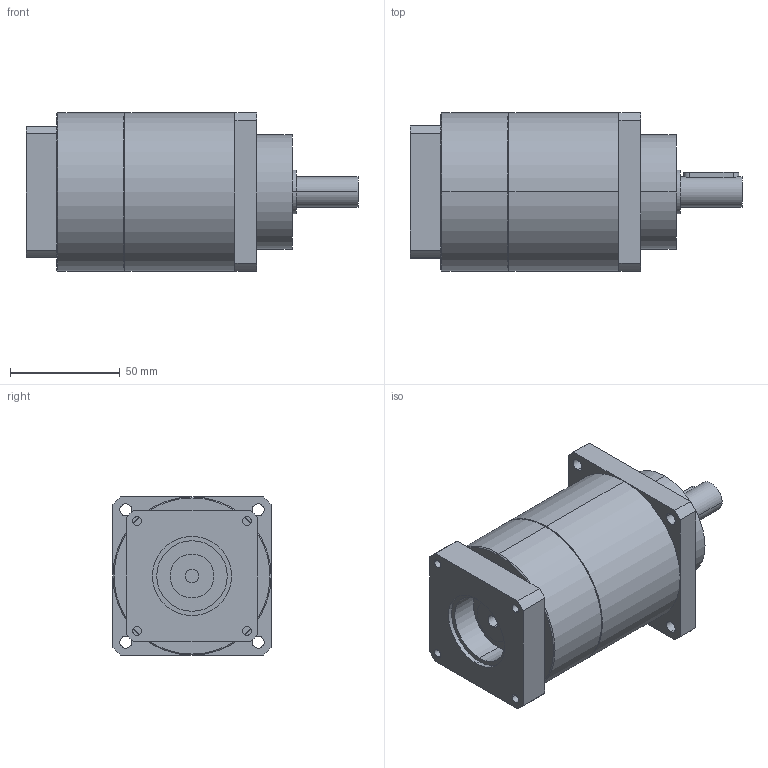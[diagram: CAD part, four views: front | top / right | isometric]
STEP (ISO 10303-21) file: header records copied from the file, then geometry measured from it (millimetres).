
FILE_DESCRIPTION(('CoCreate Modeling STEP Export'),'2;1');
FILE_NAME('GPT75_ig-9-12-16-20-25-28-35-40-50-70-100_14_B5T_6_P35.stp','2014-08-27T13:40:32',(''),(''),'CoCreate Modeling STEP processor for AP214 (Solid Model)','CoCreate Modeling 16.00C 25-Feb-2009 (C) Parametric Technology GmbH','');
FILE_SCHEMA(('AUTOMOTIVE_DESIGN { 1 0 10303 214 1 1 1 1 }'));
Length unit declared in the file: millimetre
Products named in the file (2): GPT75_ig-9-12-16-20-25-28-35-40-50-70-100_14_B5T_6_P35
Assembly tree (1 placements, depth 2):
  GPT75_ig-9-12-16-20-25-28-35-40-50-70-100_14_B5T_6_P35
    GPT75_ig-9-12-16-20-25-28-35-40-50-70-100_14_B5T_6_P35
Bounding box: 151 x 72 x 72 mm (x, y, z)
Volume: 457195.3 mm3; surface area: 42846.1 mm2
Topology: 1 solids, 1 shells, 88 faces, 226 edges, 145 vertices
Faces by surface type: cylinder 46, plane 38, cone 4
Entity records: 2676 total; most frequent: CARTESIAN_POINT 744, ORIENTED_EDGE 452, DIRECTION 334, EDGE_CURVE 226, VERTEX_POINT 145, AXIS2_PLACEMENT_3D 123, EDGE_LOOP 109, VECTOR 88
